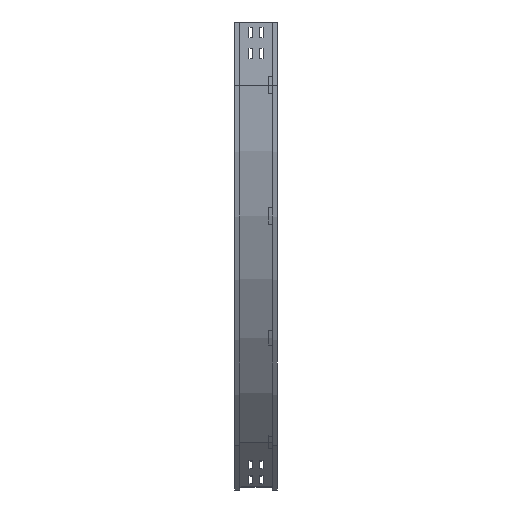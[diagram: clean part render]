
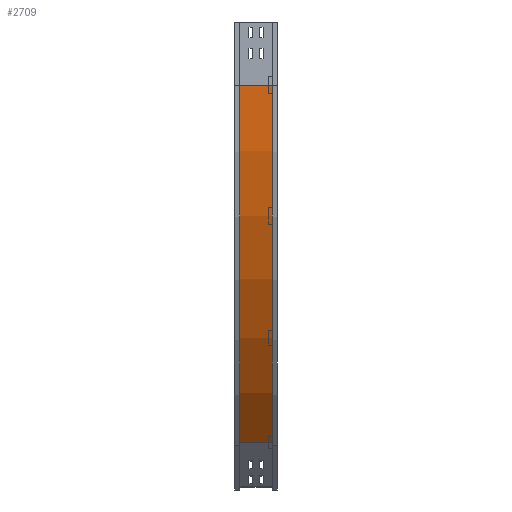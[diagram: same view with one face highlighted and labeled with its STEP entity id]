
A CAD part, left-side view. The second image highlights one B-rep face of the part: STEP entity #2709.
In plain terms, the highlighted cylindrical face has radius 1200 mm (diameter 2400 mm), a partial arc.
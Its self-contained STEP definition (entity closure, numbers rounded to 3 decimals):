
#12 = CARTESIAN_POINT ( 'NONE',  ( 1209., 12., -150. ) ) ;
#13 = CARTESIAN_POINT ( 'NONE',  ( 360.472, 12., -998.528 ) ) ;
#165 = EDGE_CURVE ( 'NONE', #4292, #4482, #1721, .T. ) ;
#312 = CARTESIAN_POINT ( 'NONE',  ( 9., 88., -150. ) ) ;
#344 = ORIENTED_EDGE ( 'NONE', *, *, #2675, .F. ) ;
#573 = CARTESIAN_POINT ( 'NONE',  ( 360.472, 88., -998.528 ) ) ;
#640 = CARTESIAN_POINT ( 'NONE',  ( 360.472, 12., -998.528 ) ) ;
#762 = ORIENTED_EDGE ( 'NONE', *, *, #3597, .F. ) ;
#805 = LINE ( 'NONE', #3532, #2338 ) ;
#1113 = VERTEX_POINT ( 'NONE', #1211 ) ;
#1184 = DIRECTION ( 'NONE',  ( 0., 0., -1. ) ) ;
#1211 = CARTESIAN_POINT ( 'NONE',  ( 9., 12., -150. ) ) ;
#1312 = VERTEX_POINT ( 'NONE', #312 ) ;
#1324 = AXIS2_PLACEMENT_3D ( 'NONE', #1847, #4206, #1495 ) ;
#1460 = DIRECTION ( 'NONE',  ( 0., -1., 0. ) ) ;
#1495 = DIRECTION ( 'NONE',  ( -1., 0., 0. ) ) ;
#1505 = CARTESIAN_POINT ( 'NONE',  ( 1209., 0., -150. ) ) ;
#1559 = DIRECTION ( 'NONE',  ( 0., -1., 0. ) ) ;
#1601 = DIRECTION ( 'NONE',  ( -1., 0., 0. ) ) ;
#1721 = LINE ( 'NONE', #640, #2670 ) ;
#1752 = CIRCLE ( 'NONE', #3999, 1200. ) ;
#1847 = CARTESIAN_POINT ( 'NONE',  ( 1209., 88., -150. ) ) ;
#2338 = VECTOR ( 'NONE', #1460, 1000. ) ;
#2417 = AXIS2_PLACEMENT_3D ( 'NONE', #1505, #4275, #1184 ) ;
#2456 = DIRECTION ( 'NONE',  ( 0., -1., 0. ) ) ;
#2670 = VECTOR ( 'NONE', #2456, 1000. ) ;
#2675 = EDGE_CURVE ( 'NONE', #1312, #1113, #805, .T. ) ;
#2709 = ADVANCED_FACE ( 'NONE', ( #2908 ), #3598, .T. ) ;
#2908 = FACE_OUTER_BOUND ( 'NONE', #3432, .T. ) ;
#3432 = EDGE_LOOP ( 'NONE', ( #762, #344, #4014, #3441 ) ) ;
#3441 = ORIENTED_EDGE ( 'NONE', *, *, #165, .T. ) ;
#3532 = CARTESIAN_POINT ( 'NONE',  ( 9., 12., -150. ) ) ;
#3573 = EDGE_CURVE ( 'NONE', #1312, #4292, #3633, .T. ) ;
#3597 = EDGE_CURVE ( 'NONE', #1113, #4482, #1752, .T. ) ;
#3598 = CYLINDRICAL_SURFACE ( 'NONE', #2417, 1200. ) ;
#3633 = CIRCLE ( 'NONE', #1324, 1200. ) ;
#3999 = AXIS2_PLACEMENT_3D ( 'NONE', #12, #1559, #1601 ) ;
#4014 = ORIENTED_EDGE ( 'NONE', *, *, #3573, .T. ) ;
#4206 = DIRECTION ( 'NONE',  ( 0., -1., 0. ) ) ;
#4275 = DIRECTION ( 'NONE',  ( 0., -1., 0. ) ) ;
#4292 = VERTEX_POINT ( 'NONE', #573 ) ;
#4482 = VERTEX_POINT ( 'NONE', #13 ) ;
